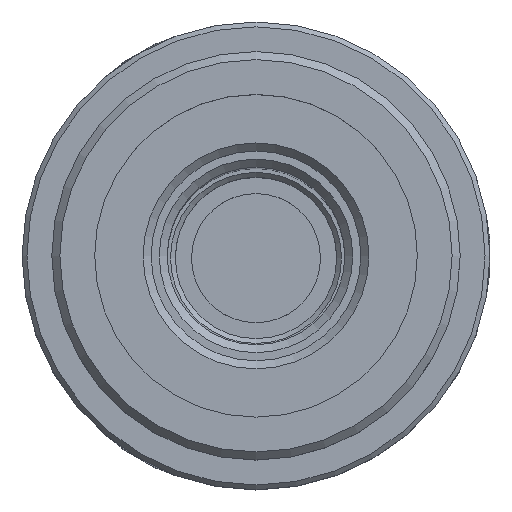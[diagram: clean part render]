
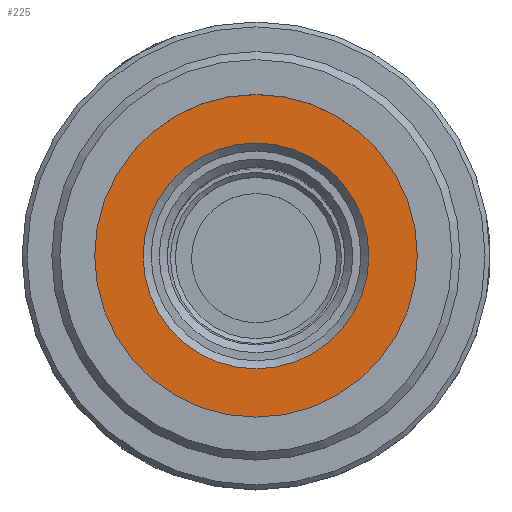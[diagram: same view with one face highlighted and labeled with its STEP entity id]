
A CAD part, top view. The second image highlights one B-rep face of the part: STEP entity #225.
In plain terms, the highlighted planar face has unit normal (0, 0, 1).
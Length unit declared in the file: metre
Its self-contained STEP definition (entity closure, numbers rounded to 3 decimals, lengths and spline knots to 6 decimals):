
#225=ADVANCED_FACE('NONE',(#563,#564),#565,.F.);
#563=FACE_BOUND('',#1130,.T.);
#564=FACE_OUTER_BOUND('',#1131,.T.);
#565=PLANE('',#1132);
#1130=EDGE_LOOP('',(#1710));
#1131=EDGE_LOOP('',(#1711));
#1132=AXIS2_PLACEMENT_3D('',#1712,#1713,#1714);
#1710=ORIENTED_EDGE('',*,*,#2618,.T.);
#1711=ORIENTED_EDGE('',*,*,#2613,.F.);
#1712=CARTESIAN_POINT('',(-0.013422,-0.001395,0.02407));
#1713=DIRECTION('',(0.,0.0,-1.0));
#1714=DIRECTION('',(-1.0,0.0,0.));
#2613=EDGE_CURVE('NONE',#3017,#3017,#3018,.T.);
#2618=EDGE_CURVE('NONE',#3024,#3024,#3025,.T.);
#3017=VERTEX_POINT('',#3808);
#3018=CIRCLE('',#3809,0.01);
#3024=VERTEX_POINT('',#3815);
#3025=CIRCLE('',#3816,0.007);
#3808=CARTESIAN_POINT('',(-0.003422,-0.011395,0.02407));
#3809=AXIS2_PLACEMENT_3D('',#4523,#4524,#4525);
#3815=CARTESIAN_POINT('',(-0.003422,-0.008395,0.02407));
#3816=AXIS2_PLACEMENT_3D('',#4529,#4530,#4531);
#4523=CARTESIAN_POINT('',(-0.003422,-0.001395,0.02407));
#4524=DIRECTION('',(0.,0.,-1.0));
#4525=DIRECTION('',(0.,-1.0,0.));
#4529=CARTESIAN_POINT('',(-0.003422,-0.001395,0.02407));
#4530=DIRECTION('',(0.,0.0,-1.0));
#4531=DIRECTION('',(0.,-1.0,0.));
